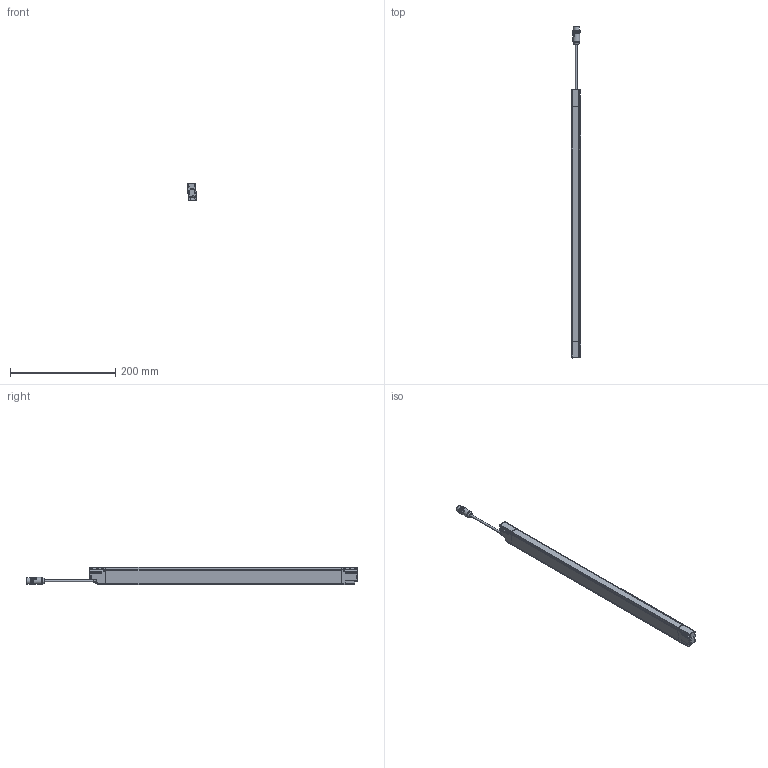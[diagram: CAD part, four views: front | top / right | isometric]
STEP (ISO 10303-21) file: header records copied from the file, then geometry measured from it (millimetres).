
FILE_DESCRIPTION(/* description */ (''),/* implementation_level */ '2;1');
FILE_NAME(/* name */ 'DSD-0632.stp',/* time_stamp */ '2015-02-23T17:12:03+01:00',/* author */ (''),/* organization */ (''),/* preprocessor_version */ 'ST-DEVELOPER v11',/* originating_system */ 'SIEMENS PLM Software NX 7.5',/* authorisation */ '');
FILE_SCHEMA (('AUTOMOTIVE_DESIGN { 1 0 10303 214 1 1 1 1 }'));
Length unit declared in the file: millimetre
Products named in the file (1): AP008111_00
Bounding box: 17.36 x 630.24 x 33.46 mm (x, y, z)
Surface area: 64593.6 mm2 (no closed solid volume)
Topology: 0 solids, 45 shells, 1104 faces, 3733 edges, 2547 vertices
Faces by surface type: cylinder 398, plane 325, bspline 147, torus 117, sphere 68, cone 49
Full cylindrical faces by diameter (mm): 1 x5, 1.2 x2, 2.6 x6, 4 x1, 8.3 x1, 9.4 x1, 10.4 x1, 12 x1, 13 x1, 13.5 x1, 14.5 x2
Entity records: 46671 total; most frequent: CARTESIAN_POINT 15191, DIRECTION 6717, ORIENTED_EDGE 5857, EDGE_CURVE 3608, AXIS2_PLACEMENT_3D 2534, VERTEX_POINT 2513, LINE 1649, VECTOR 1649
